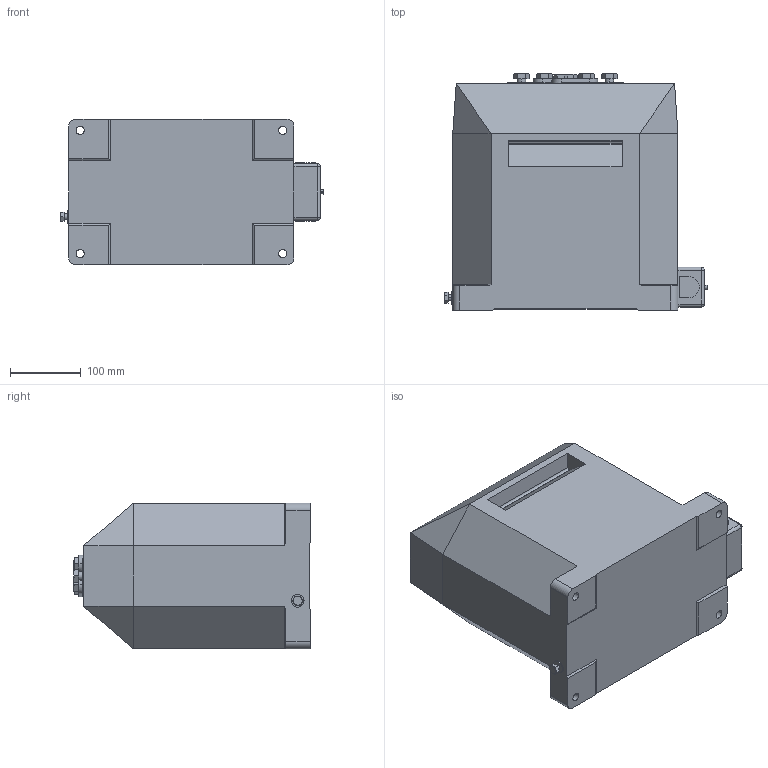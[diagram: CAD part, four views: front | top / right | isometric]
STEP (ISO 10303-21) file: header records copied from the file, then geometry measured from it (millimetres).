
FILE_DESCRIPTION (( 'STEP AP214' ), '1' );
FILE_NAME ('24305-021_AM-40a_2x5-300A_paralel.STEP', '2025-10-03T13:25:53', ( '' ), ( '' ), 'SwSTEP 2.0', 'SolidWorks 2020', '' );
FILE_SCHEMA (( 'AUTOMOTIVE_DESIGN' ));
Length unit declared in the file: millimetre
Products named in the file (1): 24305-021_AM-40a_2x5-300A_paralel
Bounding box: 372 x 334.5 x 206 mm (x, y, z)
Volume: 17824870.5 mm3; surface area: 457855.2 mm2
Topology: 1 solids, 5 shells, 351 faces, 918 edges, 584 vertices
Faces by surface type: plane 196, cylinder 121, cone 18, sphere 8, torus 4, bspline 4
Entity records: 13036 total; most frequent: CARTESIAN_POINT 2770, ORIENTED_EDGE 1820, DIRECTION 1762, EDGE_CURVE 910, AXIS2_PLACEMENT_3D 597, VERTEX_POINT 584, VECTOR 568, LINE 568
